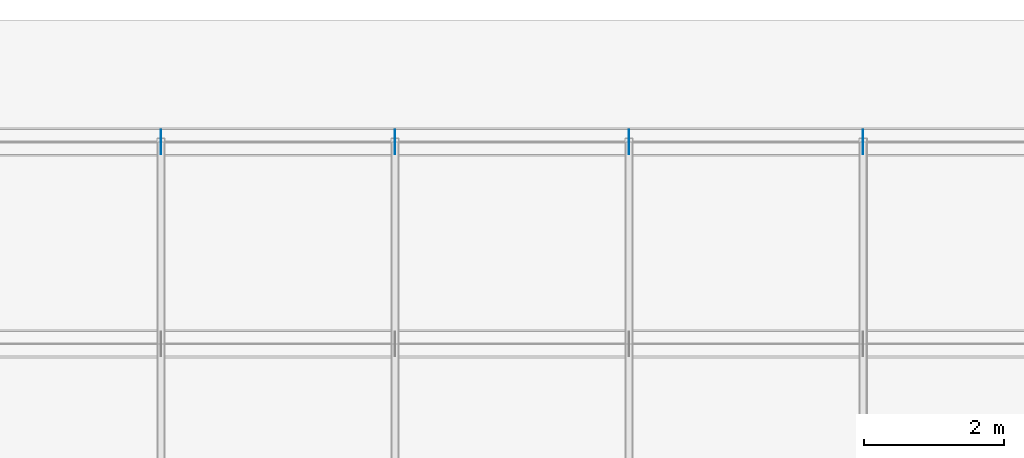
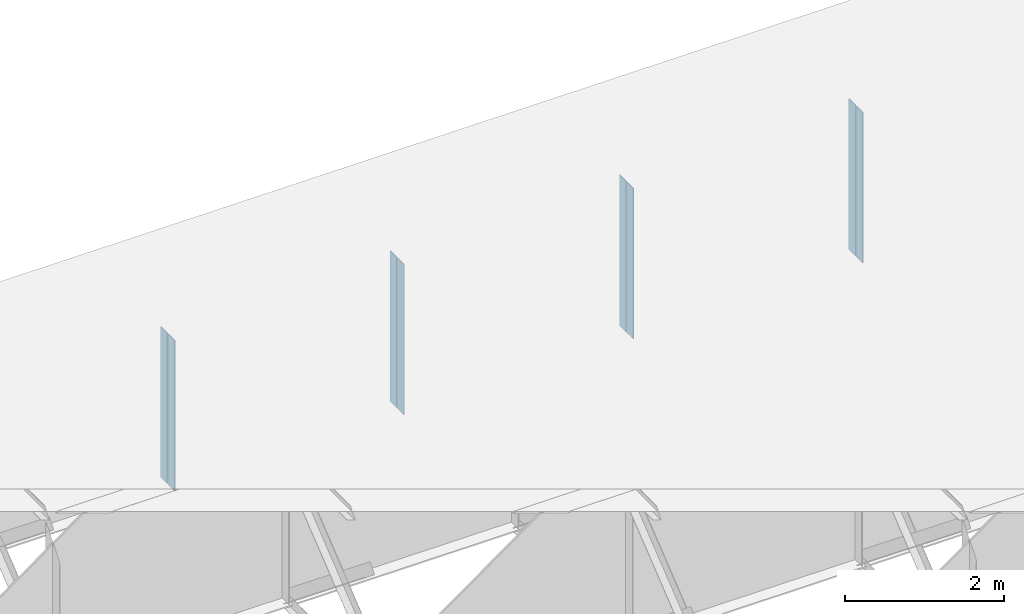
# One storey, part 14 of 15: 8 plates.
"""IFC4 building model written with IfcOpenShell, lengths in metres."""

from ifc_helpers import new_model, si_unit, frame, origin, origin_with_axes, origin_2d_with_axis, place, context, subcontext, project, spatial, rectangle, extrude, element, save


model = new_model("IFC4")

# Units and contexts
model_context = context("Model", 3, precision=1e-05, world=origin())
body_context = subcontext(model_context, "Body", "Model", "MODEL_VIEW")
ifc_project = project(units=[si_unit("LENGTHUNIT", "METRE"), si_unit("AREAUNIT", "SQUARE_METRE"), si_unit("VOLUMEUNIT", "CUBIC_METRE"), si_unit("PLANEANGLEUNIT", "RADIAN")], contexts=[model_context])

# Site, building, storey
site_placement = place(None, origin_with_axes())
site = spatial("IfcSite", under=ifc_project, at=site_placement, Name="Default Site")
building_placement = place(site_placement, origin_with_axes())
building = spatial("IfcBuilding", under=site, at=building_placement, Name="Bridge Structure")
storey_placement = place(building_placement, origin_with_axes())
storey = spatial("IfcBuildingStorey", under=building, at=storey_placement, Name="Superstructure")

# Plates
for number, where, z_axis, x_axis, name in (
    (1, (19.998, 4.404, -1.157), (0.0, 0.0, 1.0), (1.0, 0.0, 0.0), "Intermediate Stiffener 4"),
    (2, (19.998, 4.221, -1.157), (0.0, 0.0, 1.0), (1.0, 0.0, 0.0), "Intermediate Stiffener 4"),
    (3, (23.331, 4.404, -1.157), (0.0, 0.0, 1.0), (1.0, 0.0, 0.0), "Intermediate Stiffener 4"),
    (4, (23.331, 4.221, -1.157), (0.0, 0.0, 1.0), (1.0, 0.0, 0.0), "Intermediate Stiffener 4"),
    (5, (26.664, 4.404, -1.157), (0.0, 0.0, 1.0), (1.0, 0.0, 0.0), "Intermediate Stiffener 4"),
    (6, (26.664, 4.221, -1.157), (0.0, 0.0, 1.0), (1.0, 0.0, 0.0), "Intermediate Stiffener 4"),
    (7, (29.997, 4.404, -1.157), (0.0, 0.0, 1.0), (1.0, 0.0, 0.0), "Intermediate Stiffener 4"),
    (8, (29.997, 4.221, -1.157), (0.0, 0.0, 1.0), (1.0, 0.0, 0.0), "Intermediate Stiffener 4"),
):
    element("IfcPlate", number, at=place(storey_placement, frame(where, z_axis=z_axis, x_axis=x_axis)), inside=storey, Name=name, context=body_context, shape_type="SweptSolid", body=[
        extrude(rectangle(XDim=0.012, YDim=0.167, at=origin_2d_with_axis()), origin_with_axes(), (0.0, 0.0, 1.0), 2.314),
    ])

save(model, "model.ifc")
